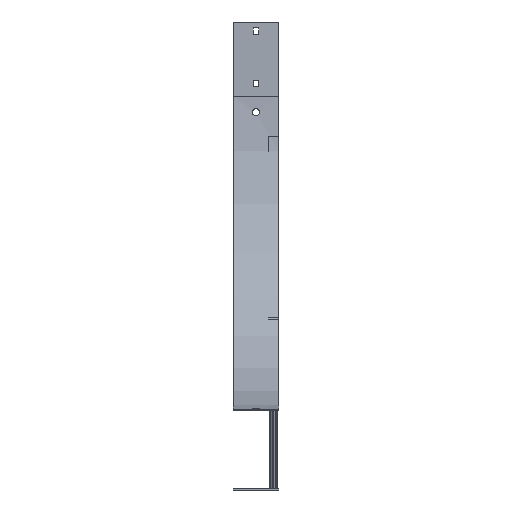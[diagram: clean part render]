
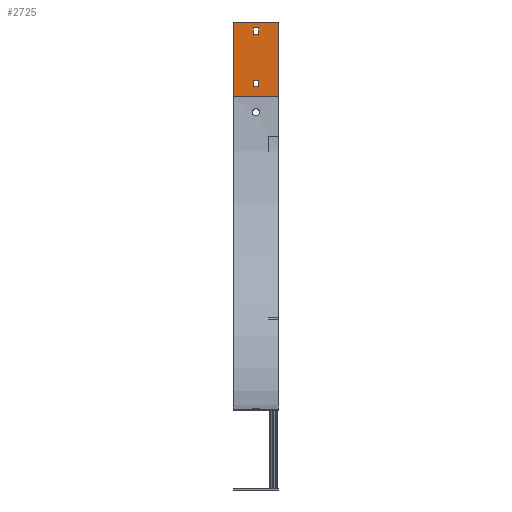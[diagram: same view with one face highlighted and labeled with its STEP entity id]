
A CAD part, left-side view. The second image highlights one B-rep face of the part: STEP entity #2725.
In plain terms, the highlighted planar face has unit normal (-1, 0, 0) as drawn and (1, 0, 0) by its records, which use the part's own axes.
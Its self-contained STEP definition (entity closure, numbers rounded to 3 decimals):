
#14 = DIRECTION ( 'NONE',  ( 0., -1., 0. ) ) ;
#22 = ORIENTED_EDGE ( 'NONE', *, *, #2598, .F. ) ;
#96 = CARTESIAN_POINT ( 'NONE',  ( -598., 49., -118.5 ) ) ;
#309 = VECTOR ( 'NONE', #516, 1000. ) ;
#415 = CARTESIAN_POINT ( 'NONE',  ( -598., 87., 0. ) ) ;
#418 = EDGE_CURVE ( 'NONE', #3632, #1568, #3458, .T. ) ;
#453 = EDGE_CURVE ( 'NONE', #541, #2067, #4634, .T. ) ;
#488 = VECTOR ( 'NONE', #1234, 1000. ) ;
#516 = DIRECTION ( 'NONE',  ( 0., 0., 1. ) ) ;
#541 = VERTEX_POINT ( 'NONE', #5093 ) ;
#545 = LINE ( 'NONE', #4296, #309 ) ;
#583 = EDGE_LOOP ( 'NONE', ( #22, #5091, #1656, #2823 ) ) ;
#774 = CARTESIAN_POINT ( 'NONE',  ( -598., 49., -118.5 ) ) ;
#857 = ORIENTED_EDGE ( 'NONE', *, *, #5248, .F. ) ;
#1020 = CARTESIAN_POINT ( 'NONE',  ( -598., 87., 0. ) ) ;
#1088 = CARTESIAN_POINT ( 'NONE',  ( -598., 38., -118.5 ) ) ;
#1105 = VERTEX_POINT ( 'NONE', #5137 ) ;
#1160 = ORIENTED_EDGE ( 'NONE', *, *, #5178, .F. ) ;
#1225 = EDGE_CURVE ( 'NONE', #3016, #4775, #1835, .T. ) ;
#1234 = DIRECTION ( 'NONE',  ( 0., 1., 0. ) ) ;
#1264 = LINE ( 'NONE', #5512, #488 ) ;
#1329 = CARTESIAN_POINT ( 'NONE',  ( -598., 38., -131.5 ) ) ;
#1350 = LINE ( 'NONE', #3045, #3198 ) ;
#1363 = VERTEX_POINT ( 'NONE', #3576 ) ;
#1443 = FACE_OUTER_BOUND ( 'NONE', #583, .T. ) ;
#1568 = VERTEX_POINT ( 'NONE', #2696 ) ;
#1639 = VECTOR ( 'NONE', #5269, 1000. ) ;
#1656 = ORIENTED_EDGE ( 'NONE', *, *, #5339, .T. ) ;
#1664 = VERTEX_POINT ( 'NONE', #1088 ) ;
#1673 = DIRECTION ( 'NONE',  ( 0., 0., -1. ) ) ;
#1703 = LINE ( 'NONE', #774, #3350 ) ;
#1835 = LINE ( 'NONE', #5216, #1639 ) ;
#1870 = EDGE_CURVE ( 'NONE', #1105, #3679, #1703, .T. ) ;
#1896 = EDGE_CURVE ( 'NONE', #1664, #3686, #3008, .T. ) ;
#2019 = DIRECTION ( 'NONE',  ( 0., 0., 1. ) ) ;
#2067 = VERTEX_POINT ( 'NONE', #4803 ) ;
#2086 = AXIS2_PLACEMENT_3D ( 'NONE', #1020, #4880, #4962 ) ;
#2096 = VECTOR ( 'NONE', #2956, 1000. ) ;
#2129 = LINE ( 'NONE', #3841, #4327 ) ;
#2198 = ORIENTED_EDGE ( 'NONE', *, *, #1870, .F. ) ;
#2204 = LINE ( 'NONE', #2657, #3694 ) ;
#2337 = VERTEX_POINT ( 'NONE', #4484 ) ;
#2467 = EDGE_CURVE ( 'NONE', #4775, #541, #2129, .T. ) ;
#2598 = EDGE_CURVE ( 'NONE', #1363, #1568, #2204, .T. ) ;
#2634 = DIRECTION ( 'NONE',  ( 0., 0., 1. ) ) ;
#2655 = EDGE_LOOP ( 'NONE', ( #4076, #857, #5319, #4857 ) ) ;
#2657 = CARTESIAN_POINT ( 'NONE',  ( -598., 0., 0. ) ) ;
#2660 = VECTOR ( 'NONE', #2019, 1000. ) ;
#2696 = CARTESIAN_POINT ( 'NONE',  ( -598., 0., 0. ) ) ;
#2725 = ADVANCED_FACE ( 'NONE', ( #4083, #3685, #1443 ), #3164, .T. ) ;
#2779 = ORIENTED_EDGE ( 'NONE', *, *, #1896, .F. ) ;
#2823 = ORIENTED_EDGE ( 'NONE', *, *, #418, .T. ) ;
#2899 = ORIENTED_EDGE ( 'NONE', *, *, #4928, .F. ) ;
#2917 = DIRECTION ( 'NONE',  ( 0., -1., 0. ) ) ;
#2956 = DIRECTION ( 'NONE',  ( 0., 1., 0. ) ) ;
#3008 = LINE ( 'NONE', #4293, #4875 ) ;
#3016 = VERTEX_POINT ( 'NONE', #3023 ) ;
#3023 = CARTESIAN_POINT ( 'NONE',  ( -598., 49., -18.5 ) ) ;
#3045 = CARTESIAN_POINT ( 'NONE',  ( -598., 49., -118.5 ) ) ;
#3164 = PLANE ( 'NONE',  #2086 ) ;
#3198 = VECTOR ( 'NONE', #4755, 1000. ) ;
#3311 = LINE ( 'NONE', #3783, #5219 ) ;
#3350 = VECTOR ( 'NONE', #4214, 1000. ) ;
#3373 = LINE ( 'NONE', #5123, #2660 ) ;
#3458 = LINE ( 'NONE', #4664, #3990 ) ;
#3576 = CARTESIAN_POINT ( 'NONE',  ( -598., 0., -142.5 ) ) ;
#3632 = VERTEX_POINT ( 'NONE', #415 ) ;
#3679 = VERTEX_POINT ( 'NONE', #96 ) ;
#3685 = FACE_BOUND ( 'NONE', #2655, .T. ) ;
#3686 = VERTEX_POINT ( 'NONE', #1329 ) ;
#3694 = VECTOR ( 'NONE', #2634, 1000. ) ;
#3783 = CARTESIAN_POINT ( 'NONE',  ( -598., 87., -142.5 ) ) ;
#3794 = EDGE_CURVE ( 'NONE', #2337, #1363, #3311, .T. ) ;
#3841 = CARTESIAN_POINT ( 'NONE',  ( -598., 38., -18.5 ) ) ;
#3990 = VECTOR ( 'NONE', #14, 1000. ) ;
#4076 = ORIENTED_EDGE ( 'NONE', *, *, #1225, .F. ) ;
#4083 = FACE_BOUND ( 'NONE', #4172, .T. ) ;
#4172 = EDGE_LOOP ( 'NONE', ( #2899, #2198, #1160, #2779 ) ) ;
#4214 = DIRECTION ( 'NONE',  ( 0., 0., 1. ) ) ;
#4293 = CARTESIAN_POINT ( 'NONE',  ( -598., 38., -118.5 ) ) ;
#4296 = CARTESIAN_POINT ( 'NONE',  ( -598., 87., 0. ) ) ;
#4327 = VECTOR ( 'NONE', #4651, 1000. ) ;
#4484 = CARTESIAN_POINT ( 'NONE',  ( -598., 87., -142.5 ) ) ;
#4634 = LINE ( 'NONE', #5175, #2096 ) ;
#4651 = DIRECTION ( 'NONE',  ( 0., 0., -1. ) ) ;
#4664 = CARTESIAN_POINT ( 'NONE',  ( -598., 87., 0. ) ) ;
#4755 = DIRECTION ( 'NONE',  ( 0., -1., 0. ) ) ;
#4775 = VERTEX_POINT ( 'NONE', #5522 ) ;
#4803 = CARTESIAN_POINT ( 'NONE',  ( -598., 49., -31.5 ) ) ;
#4857 = ORIENTED_EDGE ( 'NONE', *, *, #2467, .F. ) ;
#4875 = VECTOR ( 'NONE', #1673, 1000. ) ;
#4880 = DIRECTION ( 'NONE',  ( 1., 0., 0. ) ) ;
#4928 = EDGE_CURVE ( 'NONE', #3679, #1664, #1350, .T. ) ;
#4962 = DIRECTION ( 'NONE',  ( 0., 0., -1. ) ) ;
#5091 = ORIENTED_EDGE ( 'NONE', *, *, #3794, .F. ) ;
#5093 = CARTESIAN_POINT ( 'NONE',  ( -598., 38., -31.5 ) ) ;
#5123 = CARTESIAN_POINT ( 'NONE',  ( -598., 49., -18.5 ) ) ;
#5137 = CARTESIAN_POINT ( 'NONE',  ( -598., 49., -131.5 ) ) ;
#5175 = CARTESIAN_POINT ( 'NONE',  ( -598., 49., -31.5 ) ) ;
#5178 = EDGE_CURVE ( 'NONE', #3686, #1105, #1264, .T. ) ;
#5216 = CARTESIAN_POINT ( 'NONE',  ( -598., 49., -18.5 ) ) ;
#5219 = VECTOR ( 'NONE', #2917, 1000. ) ;
#5248 = EDGE_CURVE ( 'NONE', #2067, #3016, #3373, .T. ) ;
#5269 = DIRECTION ( 'NONE',  ( 0., -1., 0. ) ) ;
#5319 = ORIENTED_EDGE ( 'NONE', *, *, #453, .F. ) ;
#5339 = EDGE_CURVE ( 'NONE', #2337, #3632, #545, .T. ) ;
#5512 = CARTESIAN_POINT ( 'NONE',  ( -598., 49., -131.5 ) ) ;
#5522 = CARTESIAN_POINT ( 'NONE',  ( -598., 38., -18.5 ) ) ;
